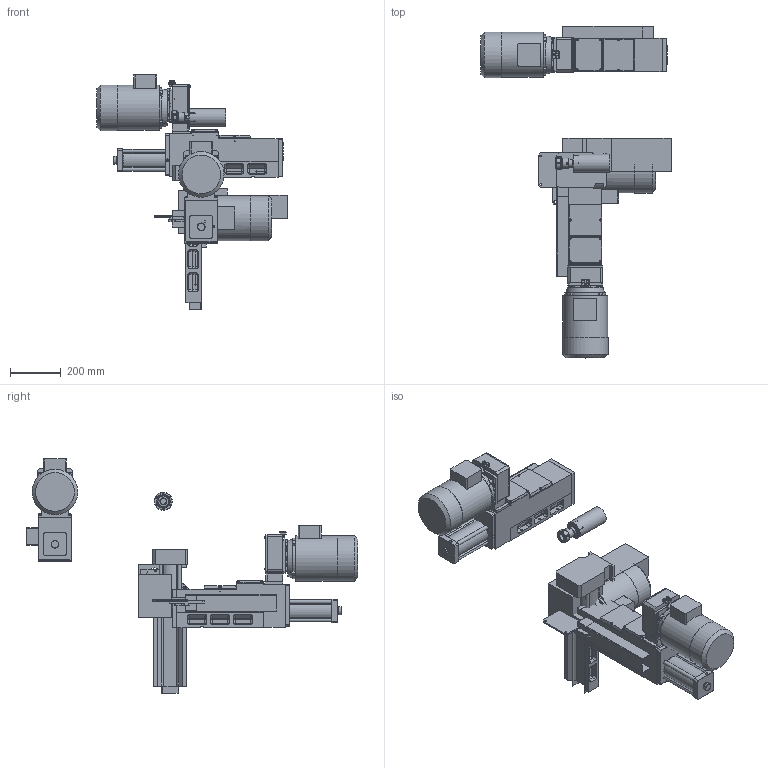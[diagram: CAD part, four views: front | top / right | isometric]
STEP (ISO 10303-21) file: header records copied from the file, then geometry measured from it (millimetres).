
FILE_DESCRIPTION( ( 'STEP AP203' ), '1' );
FILE_NAME( 'C:/Documents and Settings/Saverio/Desktop/disegni ironcad/unità serie 2/F218 (ex F222)/F 218_A03_P.stp', '2013-12-10T17:17:05', ( ' ' ), ( ' ' ), 'XStep 1.0', ' ', ' ' );
FILE_SCHEMA( ( 'CONFIG_CONTROL_DESIGN' ) );
Length unit declared in the file: metre
Products named in the file (42): Assem1; Assem2; Assem3; 1; 2; 3; 4; 5; 6; 7; 8; 9; 10; 11; 12; 13; 14; 15; 16; 17; 18; 19; 20; 21; 22; 23; 24; 25; 26; 27; 28; 29; 30; 31; 32; 33; 34; 35; 36; 37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
Bounding box: 746.57 x 1302.73 x 919.21 mm (x, y, z)
Volume: 48425454.8 mm3; surface area: 4378927.8 mm2
Topology: 117 solids, 117 shells, 3105 faces, 7227 edges, 4380 vertices
Faces by surface type: plane 1674, cylinder 822, cone 411, bspline 108, sphere 60, torus 30
Full cylindrical faces by diameter (mm): 5 x39, 5.5 x21, 6 x6, 6.5 x18, 6.637 x15, 6.647 x12, 6.75 x6, 8.385 x3, 8.5 x36, 8.75 x18, 10.25 x6, 18 x9, 20 x3, 23 x3, 24 x3, 27 x3, 27.5 x3, 30 x9, 31.2 x3, 32 x3, 38.5 x3, 40 x3, 50 x3, 52 x3, 53 x3, 54 x6, 70 x6, 76 x3, 80 x9, 95 x3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
Entity records: 31909 total; most frequent: CARTESIAN_POINT 7988, DIRECTION 4581, ORIENTED_EDGE 4194, EDGE_CURVE 2097, AXIS2_PLACEMENT_3D 1684, VERTEX_POINT 1407, EDGE_LOOP 1350, LINE 1213
